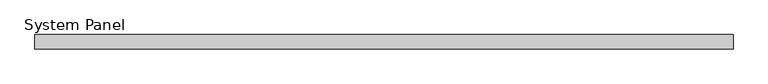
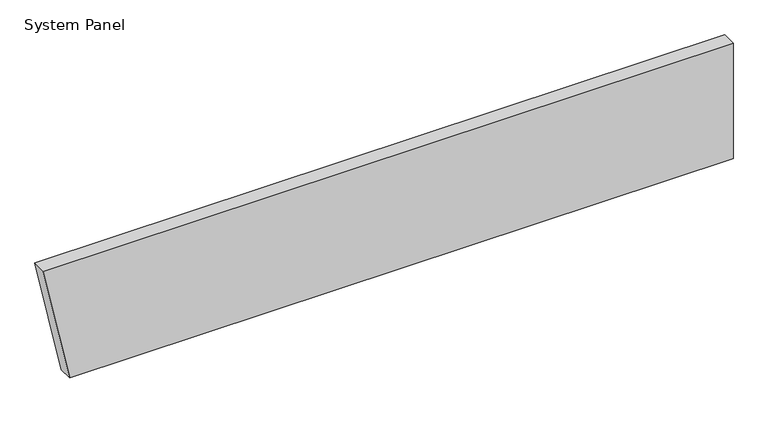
"""IFC4 building model written with IfcOpenShell, lengths in millimetres: plate geometry, System Panel : InsulWall_140mm_Plain_Surfmist."""

from ifc_helpers import new_model, si_unit, frame, origin, place, context, project, spatial, polyline, outline, extrude, source, transform, mapped, element, save


def system_panel_1d7be7d4(model_context):
    return source(origin(), model_context, "Body", "SweptSolid", [
        extrude(outline(polyline([(0.0, -3125.4358309), (0.0, 3386.3074928), (1200.0, 3386.3074928), (1200.0, -3386.3074928), (0.0, -3125.4358309)])), frame((0.0, -140.0, 0.0), z_axis=(0.0, 1.0, 0.0), x_axis=(0.0, 0.0, 1.0)), (0.0, 0.0, 1.0), 140.0),
    ])


if __name__ == "__main__":
    model = new_model("IFC4")
    model_context = context("Model", 3, world=origin())
    ifc_project = project(units=[si_unit("LENGTHUNIT", "METRE", prefix="MILLI")], contexts=[model_context])
    site = spatial("IfcSite", under=ifc_project)
    building = spatial("IfcBuilding", under=site)
    placement = place(None, origin())
    system_panel_shape = system_panel_1d7be7d4(model_context)
    element("IfcPlate", 1, ObjectType="System Panel : InsulWall_140mm_Plain_Surfmist", at=placement, inside=building, context=model_context, shape_type="MappedRepresentation", body=[
        mapped(system_panel_shape, transform((0.0, 0.0, 0.0), x_axis=(1.0, 0.0, 0.0), y_axis=(0.0, 1.0, 0.0), z_axis=(0.0, 0.0, 1.0))),
    ])
    save(model, "model.ifc")
